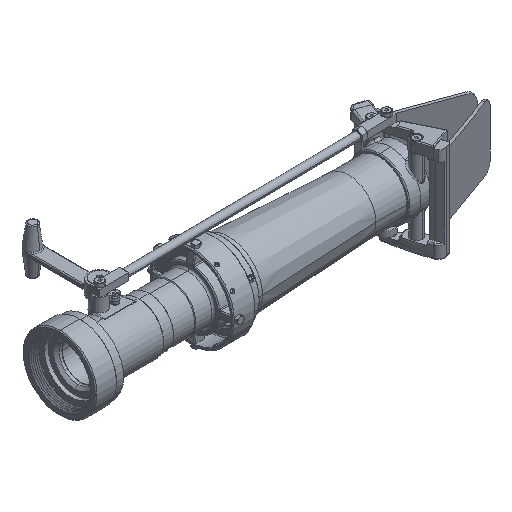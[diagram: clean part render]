
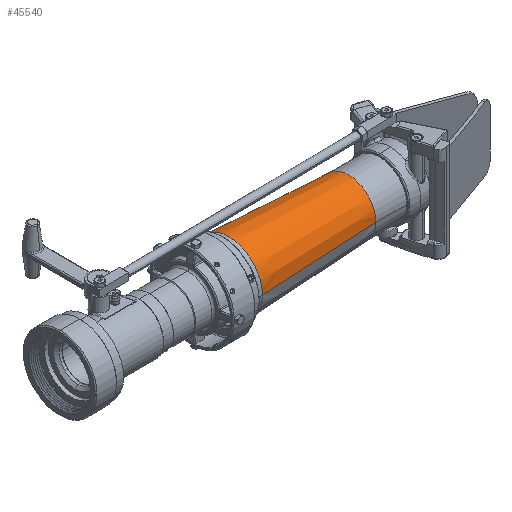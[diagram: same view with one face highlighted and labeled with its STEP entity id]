
A CAD part, isometric view. The second image highlights one B-rep face of the part: STEP entity #45540.
In plain terms, the highlighted conical face has half-angle 2.943 degrees and reference radius 51.927 mm.
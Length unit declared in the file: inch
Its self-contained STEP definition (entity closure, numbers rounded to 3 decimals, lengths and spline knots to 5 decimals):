
#6466=DIRECTION('',(0.999,-0.051,0.));
#6467=VECTOR('',#6466,8.01056);
#6468=CARTESIAN_POINT('',(9.9272,2.25,0.));
#6469=LINE('',#6468,#6467);
#6470=DIRECTION('',(-0.999,-0.051,0.));
#6471=VECTOR('',#6470,8.01056);
#6472=CARTESIAN_POINT('',(17.9272,-1.83875,0.));
#6473=LINE('',#6472,#6471);
#6479=CARTESIAN_POINT('',(17.9272,0.,0.));
#6480=DIRECTION('',(-1.,0.,0.));
#6481=DIRECTION('',(0.,-1.,0.));
#6482=AXIS2_PLACEMENT_3D('',#6479,#6480,#6481);
#6484=CARTESIAN_POINT('',(9.9272,0.,0.));
#6485=DIRECTION('',(-1.,0.,0.));
#6486=DIRECTION('',(0.,-1.,0.));
#6487=AXIS2_PLACEMENT_3D('',#6484,#6485,#6486);
#38353=CARTESIAN_POINT('',(17.9272,1.83875,0.));
#38355=VERTEX_POINT('',#38353);
#38357=CARTESIAN_POINT('',(9.9272,2.25,0.));
#38358=VERTEX_POINT('',#38357);
#38366=CARTESIAN_POINT('',(17.9272,-1.83875,0.));
#38368=VERTEX_POINT('',#38366);
#38369=CARTESIAN_POINT('',(9.9272,-2.25,0.));
#38370=VERTEX_POINT('',#38369);
#45528=CARTESIAN_POINT('',(13.9272,0.,0.));
#45529=DIRECTION('',(-1.,0.,0.));
#45530=DIRECTION('',(0.,1.,0.));
#45531=AXIS2_PLACEMENT_3D('',#45528,#45529,#45530);
#45532=CONICAL_SURFACE('',#45531,2.04438,2.943);
#45533=ORIENTED_EDGE('',*,*,#45518,.T.);
#45534=ORIENTED_EDGE('',*,*,#45461,.F.);
#45535=ORIENTED_EDGE('',*,*,#45522,.T.);
#45537=ORIENTED_EDGE('',*,*,#45536,.T.);
#45538=EDGE_LOOP('',(#45533,#45534,#45535,#45537));
#45539=FACE_OUTER_BOUND('',#45538,.F.);
#6483=CIRCLE('',#6482,1.83875);
#6488=CIRCLE('',#6487,2.25);
#45461=EDGE_CURVE('',#38368,#38355,#6483,.T.);
#45518=EDGE_CURVE('',#38358,#38355,#6469,.T.);
#45522=EDGE_CURVE('',#38368,#38370,#6473,.T.);
#45536=EDGE_CURVE('',#38370,#38358,#6488,.T.);
#45540=ADVANCED_FACE('',(#45539),#45532,.T.);
